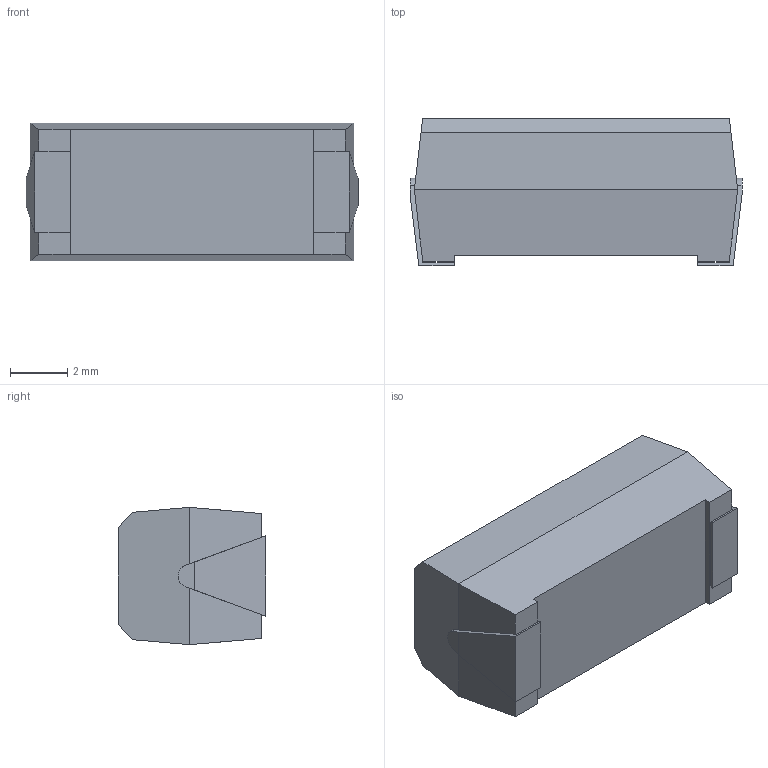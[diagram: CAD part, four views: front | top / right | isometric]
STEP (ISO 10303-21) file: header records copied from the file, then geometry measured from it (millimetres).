
FILE_DESCRIPTION(/* description */ (''),/* implementation_level */ '2;1');
FILE_NAME(/* name */ '\\Snap1\dwgs\Customer 3D Models\555\555-5120.stp',/* time_stamp */ '2016-12-22T16:35:18+00:00',/* author */ ('P. Karlsons'),/* organization */ (''),/* preprocessor_version */ 'ST-DEVELOPER v15.2',/* originating_system */ 'Autodesk Inventor 2014',/* authorisation */ '');
FILE_SCHEMA (('CONFIG_CONTROL_DESIGN'));
Length unit declared in the file: millimetre
Products named in the file (1): 555-5120-xx
Bounding box: 11.6 x 5.16 x 4.8 mm (x, y, z)
Volume: 244.2 mm3; surface area: 260.1 mm2
Topology: 1 solids, 1 shells, 36 faces, 98 edges, 64 vertices
Faces by surface type: plane 34, cylinder 2
Entity records: 1156 total; most frequent: CARTESIAN_POINT 199, ORIENTED_EDGE 196, DIRECTION 176, EDGE_CURVE 98, LINE 94, VECTOR 94, VERTEX_POINT 64, AXIS2_PLACEMENT_3D 41
